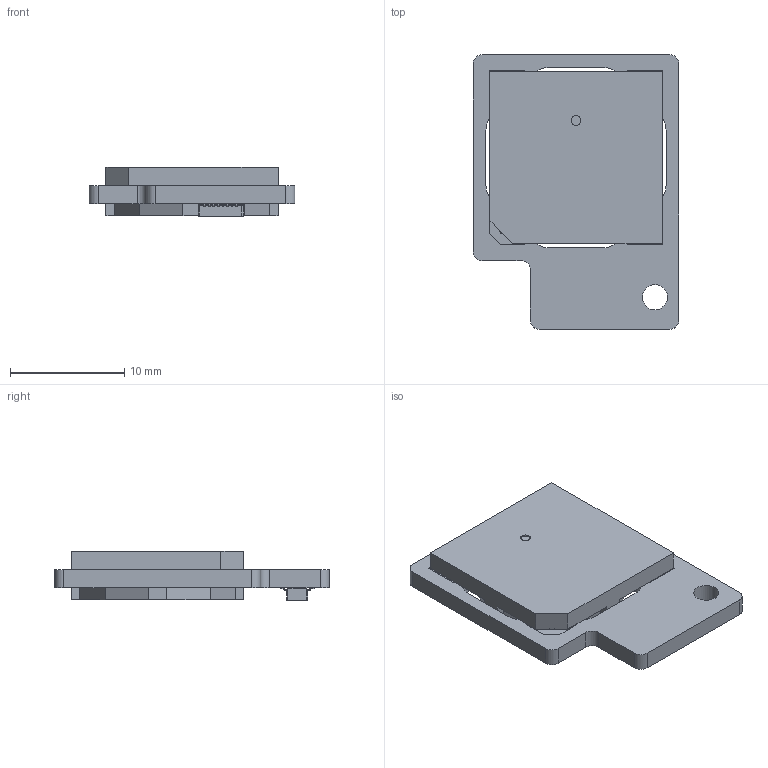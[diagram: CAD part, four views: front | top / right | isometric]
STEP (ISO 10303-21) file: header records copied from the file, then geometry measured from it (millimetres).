
FILE_DESCRIPTION (( 'STEP AP214' ), '1' );
FILE_NAME ('895-001.STEP', '2026-08-12T23:57:38', ( '' ), ( '' ), 'SwSTEP 2.0', 'SolidWorks 2020', '' );
FILE_SCHEMA (( 'AUTOMOTIVE_DESIGN' ));
Length unit declared in the file: millimetre
Products named in the file (4): 895-001; Bare sensor H2; DF40C-12DP; DGS415 base board
Assembly tree (3 placements, depth 2):
  895-001
    DGS415 base board
    DF40C-12DP
    Bare sensor H2
Bounding box: 18 x 24 x 4.35 mm (x, y, z)
Volume: 1044.7 mm3; surface area: 1377 mm2
Topology: 3 solids, 3 shells, 354 faces, 1010 edges, 672 vertices
Faces by surface type: plane 244, cylinder 110
Full cylindrical faces by diameter (mm): 0.495 x11, 0.496 x1, 0.66 x4, 0.85 x1, 2.2 x1
Entity records: 12610 total; most frequent: CARTESIAN_POINT 2184, ORIENTED_EDGE 1984, DIRECTION 1916, EDGE_CURVE 992, LINE 772, VECTOR 772, VERTEX_POINT 672, AXIS2_PLACEMENT_3D 572
